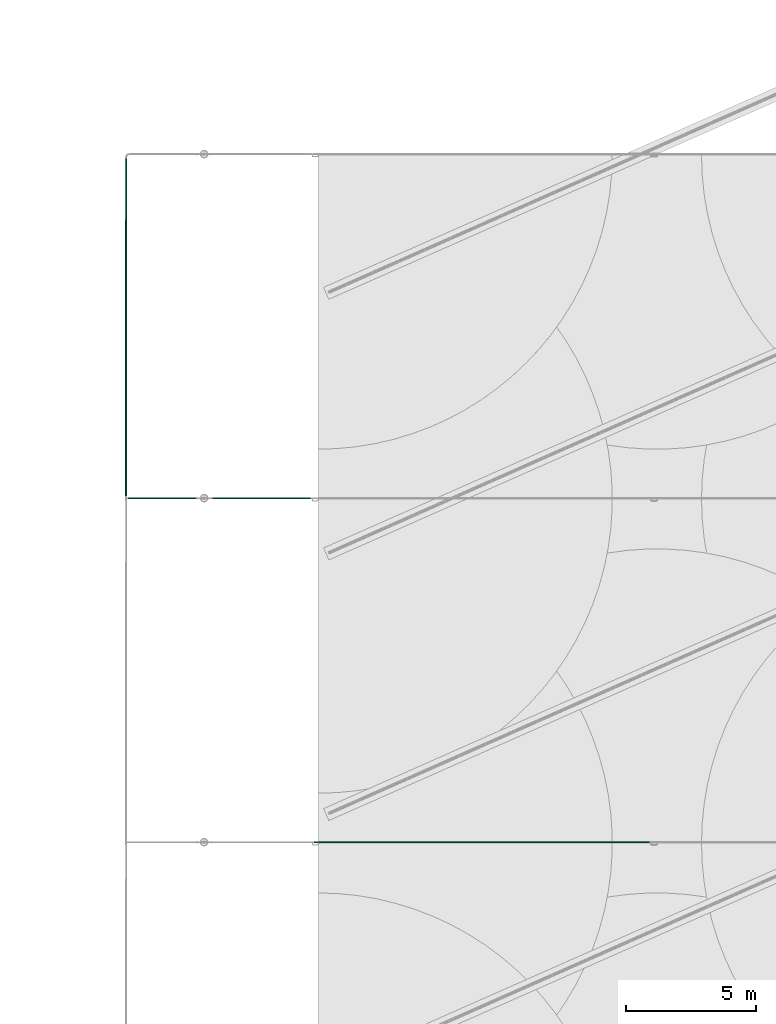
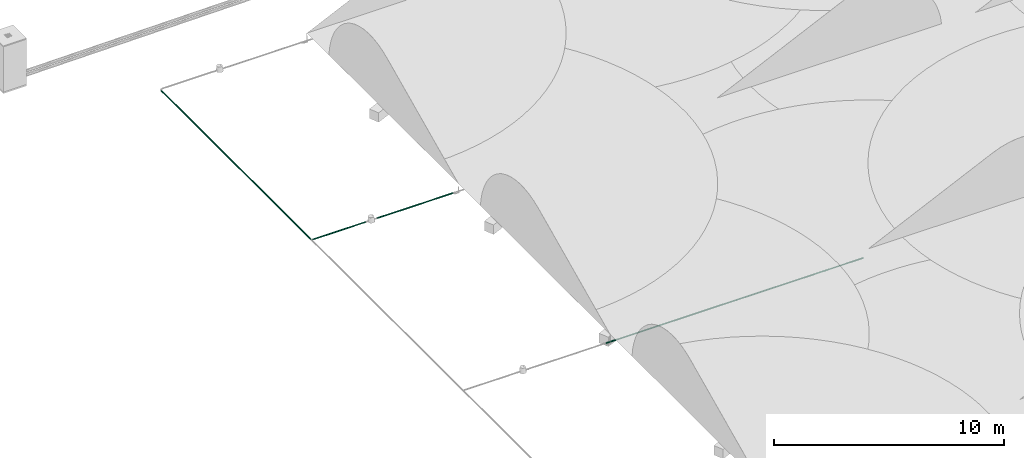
# One storey, part 16 of 166: 4 flow segments.
"""IFC2X3 building model written with IfcOpenShell, lengths in metres."""

from ifc_helpers import new_model, entity, si_unit, converted_unit, direction, frame, frame_2d, origin, origin_2d_with_axis, place, context, subcontext, project, spatial, circle, extrude, type_object, element, save


model = new_model("IFC2X3")

# Units and contexts
model_context = context("Model", 3, precision=1e-05, world=origin(), true_north=direction((6.123233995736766e-17, 1.0)))
body_context = subcontext(model_context, "Body", "Model", "MODEL_VIEW")
ifc_project = project(units=[si_unit("LENGTHUNIT", "METRE"), converted_unit("PLANEANGLEUNIT", "DEGREE", entity("IfcPlaneAngleMeasure", 0.017453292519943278), si_unit("PLANEANGLEUNIT", "RADIAN"), dimensions=[0, 0, 0, 0, 0, 0, 0]), si_unit("AREAUNIT", "SQUARE_METRE")], contexts=[model_context])

# Site, building, storey
site_placement = place(None, origin())
site = spatial("IfcSite", under=ifc_project, at=site_placement, Name="Default", CompositionType="ELEMENT")
building_placement = place(site_placement, origin())
building = spatial("IfcBuilding", under=site, at=building_placement, Name="CASA DE ACOLHIDA PARA IDOSOS", CompositionType="ELEMENT")
storey_placement = place(building_placement, frame((0.0, 0.0, -1.7499999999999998)))
storey = spatial("IfcBuildingStorey", under=building, at=storey_placement, Name="IMPLANTAÇÃO DRENAGEM", CompositionType="ELEMENT", Elevation=-1.7499999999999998)

# Flow segments
pipe_segment_type = type_object("IfcPipeSegmentType", Name="Tipos de tubos:AF_Tubo Marrom Soldável", PredefinedType="NOTDEFINED")
flow_segment_1_placement = place(storey_placement, origin())
element("IfcFlowSegment", 1, at=flow_segment_1_placement, inside=storey, type_object=pipe_segment_type, Name="Tipos de tubos:AF_Tubo Marrom Soldável", ObjectType="Tipos de tubos:AF_Tubo Marrom Soldável", context=body_context, shape_type="SweptSolid", body=[
    extrude(circle(Radius=0.025, at=frame_2d((0.0, -2.707167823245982e-16), x_axis=(1.0, 0.0))), frame((-52.088353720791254, 36.05494207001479, -0.2000000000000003), z_axis=(1.0, 0.0, 0.0), x_axis=(0.0, -1.0, 0.0)), (0.0, 0.0, 1.0), 2.6719000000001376),
])
flow_segment_2_placement = place(storey_placement, origin())
element("IfcFlowSegment", 2, at=flow_segment_2_placement, inside=storey, type_object=pipe_segment_type, Name="Tipos de tubos:AF_Tubo Marrom Soldável", ObjectType="Tipos de tubos:AF_Tubo Marrom Soldável", context=body_context, shape_type="SweptSolid", body=[
    extrude(circle(Radius=0.025, at=frame_2d((0.0, -2.707167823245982e-16), x_axis=(1.0, 0.0))), frame((-48.842341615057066, 36.05494207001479, -0.2000000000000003), z_axis=(1.0, 0.0, 0.0), x_axis=(0.0, -1.0, 0.0)), (0.0, 0.0, 1.0), 3.8187927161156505),
])
flow_segment_3_placement = place(storey_placement, origin())
element("IfcFlowSegment", 3, at=flow_segment_3_placement, inside=storey, type_object=pipe_segment_type, Name="Tipos de tubos:AF_Tubo Marrom Soldável", ObjectType="Tipos de tubos:AF_Tubo Marrom Soldável", context=body_context, shape_type="SweptSolid", body=[
    extrude(circle(Radius=0.037500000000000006, at=origin_2d_with_axis()), frame((-52.13705372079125, 36.10894207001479, -0.19999999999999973), z_axis=(0.0, 1.0, 0.0), x_axis=(-1.0, 0.0, 0.0)), (0.0, 0.0, 1.0), 13.030739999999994),
])
flow_segment_4_placement = place(storey_placement, origin())
element("IfcFlowSegment", 4, at=flow_segment_4_placement, inside=storey, type_object=pipe_segment_type, Name="Tipos de tubos:AF_Tubo Marrom Soldável", ObjectType="Tipos de tubos:AF_Tubo Marrom Soldável", context=body_context, shape_type="SweptSolid", body=[
    extrude(circle(Radius=0.025, at=frame_2d((0.0, -2.707167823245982e-16), x_axis=(1.0, 0.0))), frame((-44.95834889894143, 22.85494207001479, -0.19999999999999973), z_axis=(1.0, 0.0, 0.0), x_axis=(0.0, -1.0, 0.0)), (0.0, 0.0, 1.0), 12.934799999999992),
])

save(model, "model.ifc")
